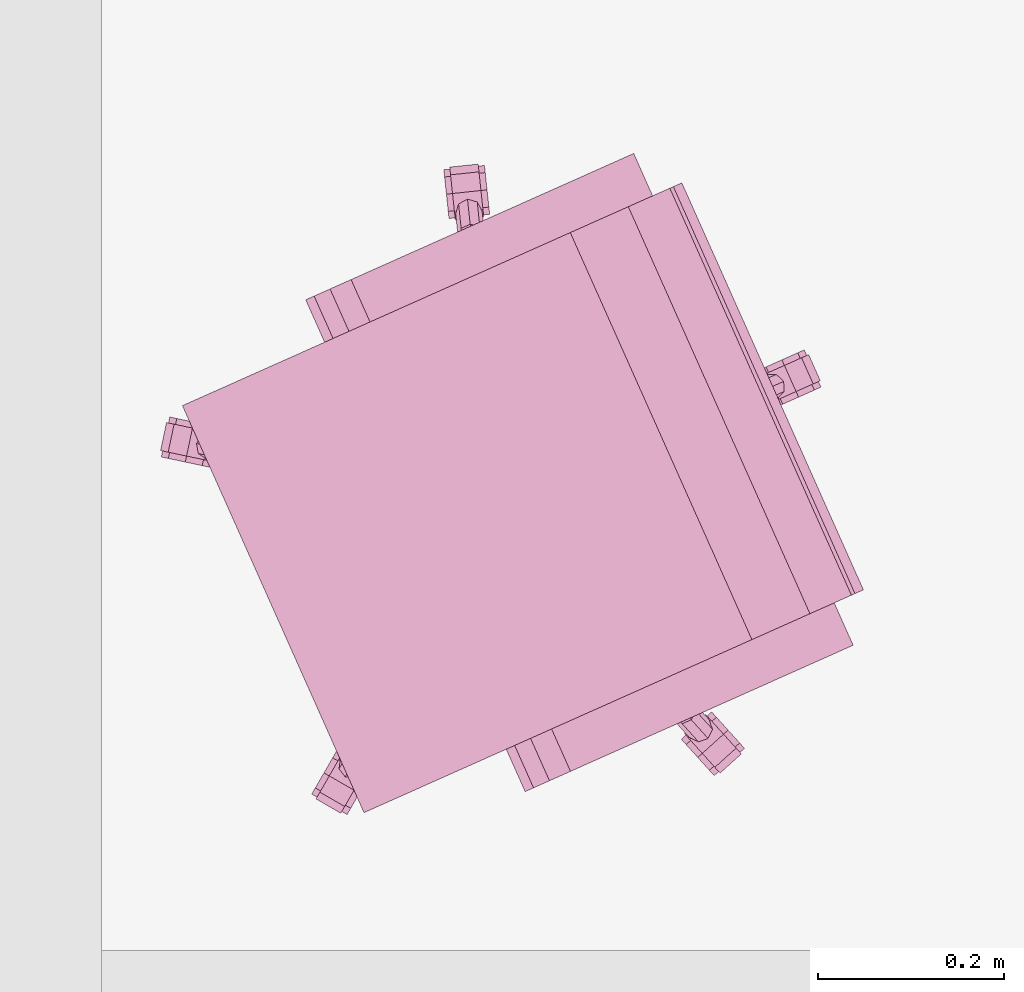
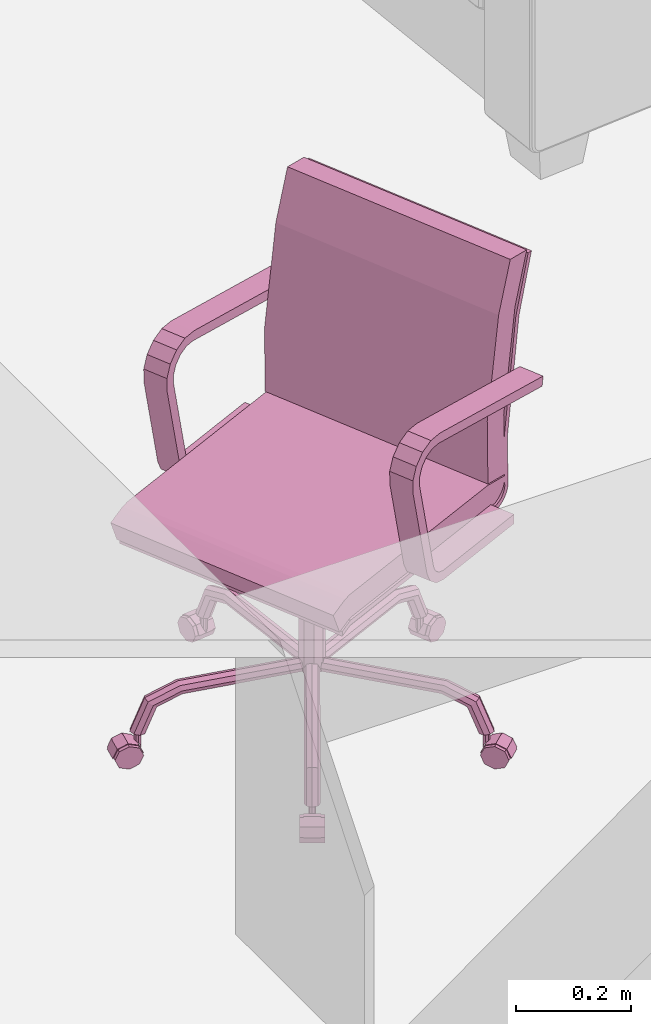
# One storey, part 36 of 36: 1 furnishing.
"""IFC2X3 building model written with IfcOpenShell, lengths in millimetres."""

from ifc_helpers import new_model, entity, si_unit, converted_unit, money_unit, direction, frame, origin_with_axes, place, context, subcontext, project, spatial, open_shell, faceted_brep, surface_model, material, material_list, type_object, element, save


model = new_model("IFC2X3")

# Units and contexts
model_context = context("Model", 3, precision=1e-05, world=origin_with_axes(), true_north=direction((0.0, 1.0)))
body_context = subcontext(model_context, "Body", "Model", "MODEL_VIEW")
ifc_project = project(units=[si_unit("LENGTHUNIT", "METRE", prefix="MILLI"), si_unit("AREAUNIT", "SQUARE_METRE"), si_unit("VOLUMEUNIT", "CUBIC_METRE"), converted_unit("PLANEANGLEUNIT", "DEGREE", entity("IfcPlaneAngleMeasure", 0.0174532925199), si_unit("PLANEANGLEUNIT", "RADIAN"), dimensions=[0, 0, 0, 0, 0, 0, 0]), si_unit("SOLIDANGLEUNIT", "STERADIAN"), money_unit("USD"), converted_unit("TIMEUNIT", "Year", entity("IfcTimeMeasure", 31556926.0), si_unit("TIMEUNIT", "SECOND"), dimensions=[0, 0, 0, 0, 0, 0, 0]), si_unit("MASSUNIT", "GRAM"), si_unit("THERMODYNAMICTEMPERATUREUNIT", "DEGREE_CELSIUS"), si_unit("LUMINOUSINTENSITYUNIT", "LUMEN")], contexts=[model_context])

# Site, building, storey
site_placement = place(None, origin_with_axes())
site = spatial("IfcSite", under=ifc_project, at=site_placement, Name="Site", CompositionType="ELEMENT")
building_placement = place(site_placement, origin_with_axes())
building = spatial("IfcBuilding", under=site, at=building_placement, Name="Building", CompositionType="ELEMENT")
storey_placement = place(building_placement, frame((0.0, 0.0, -3400.0), z_axis=(0.0, 0.0, 1.0), x_axis=(1.0, 0.0, 0.0)))
storey = spatial("IfcBuildingStorey", under=building, at=storey_placement, Name="1KORRUS", CompositionType="ELEMENT", Elevation=-3400.0)

# Furnishing
ifc_material = material(Name="Background")
ifc_material_list = material_list([ifc_material])
furnishing_element_type = type_object("IfcFurnishingElementType", Name="Office Chair 04 19")
furnishing_placement = place(storey_placement, frame((-56987.0141553, -9570.92077888, 0.0), z_axis=(0.0, 0.0, 1.0), x_axis=(0.407465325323, -0.913220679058, 0.0)))
element("IfcFurnishingElement", 1, at=furnishing_placement, inside=storey, type_object=furnishing_element_type, material=ifc_material_list, Name="FU - 009", context=body_context, shape_type="SurfaceModel", body=[
    faceted_brep([(117.332, 563.027, 474.001), (117.332, 560.682, 575.432), (597.615, 560.682, 575.432), (597.615, 563.027, 474.001), (117.332, 562.264, 469.608), (117.332, 559.869, 463.031), (117.332, 556.369, 456.969), (117.332, 551.868, 451.608), (117.332, 546.504, 447.109), (117.332, 540.441, 443.609), (117.332, 533.862, 441.215), (117.332, 526.966, 440.0), (117.332, 523.466, 440.0), (117.332, 94.088, 440.0), (117.332, 70.079, 430.0), (117.332, 70.079, 440.0), (117.332, 94.464, 450.0), (117.332, 523.466, 450.0), (117.332, 526.091, 450.0), (117.332, 531.263, 450.912), (117.332, 536.197, 452.707), (117.332, 540.745, 455.332), (117.332, 544.768, 458.706), (117.332, 548.143, 462.727), (117.332, 550.769, 467.273), (117.332, 552.564, 472.206), (117.332, 553.137, 475.5), (117.332, 550.806, 577.044), (117.332, 585.645, 817.664), (117.332, 622.637, 933.466), (117.332, 632.622, 932.595), (117.332, 595.567, 816.55), (597.615, 595.567, 816.55), (597.615, 632.622, 932.595), (597.615, 622.637, 933.466), (597.615, 585.645, 817.664), (597.615, 550.806, 577.044), (597.615, 553.137, 475.5), (597.615, 552.564, 472.206), (597.615, 550.769, 467.273), (597.615, 548.143, 462.727), (597.615, 544.768, 458.706), (597.615, 540.745, 455.332), (597.615, 536.197, 452.707), (597.615, 531.263, 450.912), (597.615, 526.091, 450.0), (597.615, 523.466, 450.0), (597.615, 94.464, 450.0), (597.615, 70.079, 440.0), (597.615, 70.079, 430.0), (597.615, 94.088, 440.0), (597.615, 523.466, 440.0), (597.615, 526.966, 440.0), (597.615, 533.862, 441.215), (597.615, 540.441, 443.609), (597.615, 546.504, 447.109), (597.615, 551.868, 451.608), (597.615, 556.369, 456.969), (597.615, 559.869, 463.031), (597.615, 562.264, 469.608)], [[[0, 1, 2, 3]], [[0, 4, 5, 6, 7, 8, 9, 10, 11, 12, 13, 14, 15, 16, 17, 18, 19, 20, 21, 22, 23, 24, 25, 26, 27, 28, 29, 30, 31, 1]], [[1, 31, 32, 2]], [[3, 2, 32, 33, 34, 35, 36, 37, 38, 39, 40, 41, 42, 43, 44, 45, 46, 47, 48, 49, 50, 51, 52, 53, 54, 55, 56, 57, 58, 59]], [[4, 0, 3, 59]], [[5, 4, 59, 58]], [[6, 5, 58, 57]], [[7, 6, 57, 56]], [[8, 7, 56, 55]], [[9, 8, 55, 54]], [[10, 9, 54, 53]], [[11, 10, 53, 52]], [[12, 11, 52, 51]], [[13, 12, 51, 50]], [[14, 13, 50, 49]], [[15, 14, 49, 48]], [[16, 15, 48, 47]], [[17, 16, 47, 46]], [[18, 17, 46, 45]], [[19, 18, 45, 44]], [[20, 19, 44, 43]], [[21, 20, 43, 42]], [[22, 21, 42, 41]], [[23, 22, 41, 40]], [[24, 23, 40, 39]], [[25, 24, 39, 38]], [[26, 25, 38, 37]], [[27, 26, 37, 36]], [[28, 27, 36, 35]], [[29, 28, 35, 34]], [[30, 29, 34, 33]], [[31, 30, 33, 32]]]),
    faceted_brep([(117.332, 503.091, 508.623), (117.332, 552.407, 501.304), (597.615, 552.407, 501.304), (597.615, 503.091, 508.623), (117.332, 501.017, 643.688), (117.332, 534.85, 850.614), (117.332, 569.482, 949.569), (117.332, 618.462, 942.299), (117.332, 583.609, 841.333), (117.332, 550.037, 630.369), (597.615, 550.037, 630.369), (597.615, 583.609, 841.333), (597.615, 618.462, 942.299), (597.615, 569.482, 949.569), (597.615, 534.85, 850.614), (597.615, 501.017, 643.688)], [[[0, 1, 2, 3]], [[0, 4, 5, 6, 7, 8, 9, 1]], [[1, 9, 10, 2]], [[3, 2, 10, 11, 12, 13, 14, 15]], [[4, 0, 3, 15]], [[5, 4, 15, 14]], [[6, 5, 14, 13]], [[7, 6, 13, 12]], [[8, 7, 12, 11]], [[9, 8, 11, 10]]]),
    faceted_brep([(117.332, 100.3, 506.0), (117.332, 93.299, 506.0), (597.615, 93.299, 506.0), (597.615, 100.3, 506.0), (117.332, 501.551, 506.0), (117.332, 552.755, 498.401), (117.332, 553.251, 498.327), (117.332, 553.447, 497.398), (117.332, 553.003, 490.062), (117.332, 551.291, 482.914), (117.332, 548.364, 476.172), (117.332, 544.309, 470.04), (117.332, 539.252, 464.706), (117.332, 533.344, 460.33), (117.332, 526.767, 457.046), (117.332, 523.243, 456.0), (117.332, 99.692, 456.0), (117.332, 97.066, 456.0), (117.332, 91.895, 455.088), (117.332, 88.301, 453.755), (117.332, 62.076, 443.0), (117.332, 43.338, 489.11), (117.332, 69.924, 500.013), (117.332, 79.508, 503.569), (597.615, 79.508, 503.569), (597.615, 69.924, 500.013), (597.615, 43.338, 489.11), (597.615, 62.076, 443.0), (597.615, 88.301, 453.755), (597.615, 91.895, 455.088), (597.615, 97.066, 456.0), (597.615, 99.692, 456.0), (597.615, 523.243, 456.0), (597.615, 526.767, 457.046), (597.615, 533.344, 460.33), (597.615, 539.252, 464.706), (597.615, 544.309, 470.04), (597.615, 548.364, 476.172), (597.615, 551.291, 482.914), (597.615, 553.003, 490.062), (597.615, 553.447, 497.398), (597.615, 553.251, 498.327), (597.615, 552.755, 498.401), (597.615, 501.551, 506.0)], [[[0, 1, 2, 3]], [[0, 4, 5, 6, 7, 8, 9, 10, 11, 12, 13, 14, 15, 16, 17, 18, 19, 20, 21, 22, 23, 1]], [[1, 23, 24, 2]], [[3, 2, 24, 25, 26, 27, 28, 29, 30, 31, 32, 33, 34, 35, 36, 37, 38, 39, 40, 41, 42, 43]], [[4, 0, 3, 43]], [[5, 4, 43, 42]], [[6, 5, 42, 41]], [[7, 6, 41, 40]], [[8, 7, 40, 39]], [[9, 8, 39, 38]], [[10, 9, 38, 37]], [[11, 10, 37, 36]], [[12, 11, 36, 35]], [[13, 12, 35, 34]], [[14, 13, 34, 33]], [[15, 14, 33, 32]], [[16, 15, 32, 31]], [[17, 16, 31, 30]], [[18, 17, 30, 29]], [[19, 18, 29, 28]], [[20, 19, 28, 27]], [[21, 20, 27, 26]], [[22, 21, 26, 25]], [[23, 22, 25, 24]]]),
    faceted_brep([(597.615, 511.238, 460.0), (597.615, 301.918, 459.77), (647.645, 301.918, 459.77), (647.645, 511.238, 460.0), (597.615, 511.629, 460.004), (597.615, 511.629, 440.004), (597.615, 301.943, 439.772), (597.615, 279.997, 444.815), (597.615, 262.488, 458.969), (597.615, 252.964, 479.367), (597.615, 211.498, 674.18), (597.615, 211.1, 701.301), (597.615, 221.045, 726.536), (597.615, 239.84, 746.099), (597.615, 264.663, 757.05), (597.615, 291.787, 757.747), (597.615, 598.179, 705.401), (597.615, 595.172, 685.628), (597.615, 288.412, 738.037), (597.615, 269.038, 737.539), (597.615, 251.307, 729.717), (597.615, 237.882, 715.743), (597.615, 230.779, 697.718), (597.615, 231.063, 678.346), (597.615, 272.532, 483.526), (597.615, 278.246, 471.288), (597.615, 288.751, 462.796), (647.645, 288.751, 462.796), (647.645, 278.246, 471.288), (647.645, 272.532, 483.526), (647.645, 231.063, 678.346), (647.645, 230.779, 697.718), (647.645, 237.882, 715.743), (647.645, 251.307, 729.717), (647.645, 269.038, 737.539), (647.645, 288.412, 738.037), (647.645, 595.172, 685.628), (647.645, 598.179, 705.401), (647.645, 291.787, 757.747), (647.645, 264.663, 757.05), (647.645, 239.84, 746.099), (647.645, 221.045, 726.536), (647.645, 211.1, 701.301), (647.645, 211.498, 674.18), (647.645, 252.964, 479.367), (647.645, 262.488, 458.969), (647.645, 279.997, 444.815), (647.645, 301.943, 439.772), (647.645, 511.629, 440.004), (647.645, 511.629, 460.004)], [[[0, 1, 2, 3]], [[0, 4, 5, 6, 7, 8, 9, 10, 11, 12, 13, 14, 15, 16, 17, 18, 19, 20, 21, 22, 23, 24, 25, 26, 1]], [[1, 26, 27, 2]], [[3, 2, 27, 28, 29, 30, 31, 32, 33, 34, 35, 36, 37, 38, 39, 40, 41, 42, 43, 44, 45, 46, 47, 48, 49]], [[4, 0, 3, 49]], [[5, 4, 49, 48]], [[6, 5, 48, 47]], [[7, 6, 47, 46]], [[8, 7, 46, 45]], [[9, 8, 45, 44]], [[10, 9, 44, 43]], [[11, 10, 43, 42]], [[12, 11, 42, 41]], [[13, 12, 41, 40]], [[14, 13, 40, 39]], [[15, 14, 39, 38]], [[16, 15, 38, 37]], [[17, 16, 37, 36]], [[18, 17, 36, 35]], [[19, 18, 35, 34]], [[20, 19, 34, 33]], [[21, 20, 33, 32]], [[22, 21, 32, 31]], [[23, 22, 31, 30]], [[24, 23, 30, 29]], [[25, 24, 29, 28]], [[26, 25, 28, 27]]]),
    faceted_brep([(67.302, 511.238, 460.0), (67.302, 301.918, 459.77), (117.332, 301.918, 459.77), (117.332, 511.238, 460.0), (67.302, 511.629, 460.004), (67.302, 511.629, 440.004), (67.302, 301.943, 439.772), (67.302, 279.997, 444.815), (67.302, 262.488, 458.969), (67.302, 252.964, 479.367), (67.302, 211.498, 674.18), (67.302, 211.1, 701.301), (67.302, 221.045, 726.536), (67.302, 239.84, 746.099), (67.302, 264.663, 757.05), (67.302, 291.787, 757.747), (67.302, 598.179, 705.401), (67.302, 595.172, 685.628), (67.302, 288.412, 738.037), (67.302, 269.038, 737.539), (67.302, 251.307, 729.717), (67.302, 237.882, 715.743), (67.302, 230.779, 697.718), (67.302, 231.063, 678.346), (67.302, 272.532, 483.526), (67.302, 278.246, 471.288), (67.302, 288.751, 462.796), (117.332, 288.751, 462.796), (117.332, 278.246, 471.288), (117.332, 272.532, 483.526), (117.332, 231.063, 678.346), (117.332, 230.779, 697.718), (117.332, 237.882, 715.743), (117.332, 251.307, 729.717), (117.332, 269.038, 737.539), (117.332, 288.412, 738.037), (117.332, 595.172, 685.628), (117.332, 598.179, 705.401), (117.332, 291.787, 757.747), (117.332, 264.663, 757.05), (117.332, 239.84, 746.099), (117.332, 221.045, 726.536), (117.332, 211.1, 701.301), (117.332, 211.498, 674.18), (117.332, 252.964, 479.367), (117.332, 262.488, 458.969), (117.332, 279.997, 444.815), (117.332, 301.943, 439.772), (117.332, 511.629, 440.004), (117.332, 511.629, 460.004)], [[[0, 1, 2, 3]], [[0, 4, 5, 6, 7, 8, 9, 10, 11, 12, 13, 14, 15, 16, 17, 18, 19, 20, 21, 22, 23, 24, 25, 26, 1]], [[1, 26, 27, 2]], [[3, 2, 27, 28, 29, 30, 31, 32, 33, 34, 35, 36, 37, 38, 39, 40, 41, 42, 43, 44, 45, 46, 47, 48, 49]], [[4, 0, 3, 49]], [[5, 4, 49, 48]], [[6, 5, 48, 47]], [[7, 6, 47, 46]], [[8, 7, 46, 45]], [[9, 8, 45, 44]], [[10, 9, 44, 43]], [[11, 10, 43, 42]], [[12, 11, 42, 41]], [[13, 12, 41, 40]], [[14, 13, 40, 39]], [[15, 14, 39, 38]], [[16, 15, 38, 37]], [[17, 16, 37, 36]], [[18, 17, 36, 35]], [[19, 18, 35, 34]], [[20, 19, 34, 33]], [[21, 20, 33, 32]], [[22, 21, 32, 31]], [[23, 22, 31, 30]], [[24, 23, 30, 29]], [[25, 24, 29, 28]], [[26, 25, 28, 27]]]),
    faceted_brep([(388.605, 342.29, 400.0), (401.5, 311.166, 400.0), (388.605, 280.042, 400.0), (357.474, 267.15, 400.0), (326.343, 280.042, 400.0), (313.448, 311.166, 400.0), (326.343, 342.29, 400.0), (357.474, 355.182, 400.0), (388.605, 342.29, 440.0), (401.5, 311.166, 440.0), (388.605, 280.042, 440.0), (357.474, 267.15, 440.0), (326.343, 280.042, 440.0), (313.448, 311.166, 440.0), (326.343, 342.29, 440.0), (357.474, 355.182, 440.0)], [[[0, 1, 2, 3, 4, 5, 6, 7]], [[1, 0, 8, 9]], [[2, 1, 9, 10]], [[3, 2, 10, 11]], [[4, 3, 11, 12]], [[5, 4, 12, 13]], [[6, 5, 13, 14]], [[7, 6, 14, 15]], [[0, 7, 15, 8]], [[8, 15, 14, 13, 12, 11, 10, 9]]]),
    faceted_brep([(366.813, 320.503, 300.0), (370.681, 311.166, 300.0), (366.813, 301.829, 300.0), (357.474, 297.962, 300.0), (348.134, 301.829, 300.0), (344.266, 311.166, 300.0), (348.134, 320.503, 300.0), (357.474, 324.371, 300.0), (366.813, 320.503, 400.0), (370.681, 311.166, 400.0), (366.813, 301.829, 400.0), (357.474, 297.962, 400.0), (348.134, 301.829, 400.0), (344.266, 311.166, 400.0), (348.134, 320.503, 400.0), (357.474, 324.371, 400.0)], [[[0, 1, 2, 3, 4, 5, 6, 7]], [[1, 0, 8, 9]], [[2, 1, 9, 10]], [[3, 2, 10, 11]], [[4, 3, 11, 12]], [[5, 4, 12, 13]], [[6, 5, 13, 14]], [[7, 6, 14, 15]], [[0, 7, 15, 8]], [[8, 15, 14, 13, 12, 11, 10, 9]]]),
    faceted_brep([(374.596, 328.284, 130.0), (381.688, 311.166, 130.0), (374.596, 294.048, 130.0), (357.474, 286.958, 130.0), (340.352, 294.048, 130.0), (333.259, 311.166, 130.0), (340.352, 328.284, 130.0), (357.474, 335.375, 130.0), (374.596, 328.284, 300.0), (381.688, 311.166, 300.0), (374.596, 294.048, 300.0), (357.474, 286.958, 300.0), (340.352, 294.048, 300.0), (333.259, 311.166, 300.0), (340.352, 328.284, 300.0), (357.474, 335.375, 300.0)], [[[0, 1, 2, 3, 4, 5, 6, 7]], [[1, 0, 8, 9]], [[2, 1, 9, 10]], [[3, 2, 10, 11]], [[4, 3, 11, 12]], [[5, 4, 12, 13]], [[6, 5, 13, 14]], [[7, 6, 14, 15]], [[0, 7, 15, 8]], [[8, 15, 14, 13, 12, 11, 10, 9]]]),
    faceted_brep([(57.282, 423.723, 62.1), (46.365, 422.864, 63.779), (71.4, 414.732, 127.054), (80.224, 416.271, 120.083), (65.61, 416.613, 60.421), (66.469, 405.698, 59.725), (59.357, 397.372, 60.421), (48.439, 396.513, 62.1), (40.112, 403.624, 63.779), (39.253, 414.539, 64.475), (65.155, 406.124, 129.941), (127.348, 396.557, 149.192), (130.557, 399.92, 140.0), (86.458, 409.84, 113.113), (86.45, 399.207, 110.225), (80.205, 390.6, 113.113), (71.381, 389.061, 120.083), (65.147, 395.491, 127.054), (123.428, 387.195, 153.0), (340.711, 327.247, 149.192), (342.006, 331.232, 140.0), (131.176, 395.314, 130.808), (128.842, 385.436, 127.0), (124.923, 376.073, 130.808), (121.714, 372.71, 140.0), (121.095, 377.317, 149.192), (337.585, 317.627, 153.0), (334.458, 308.007, 149.192), (333.163, 304.022, 140.0), (334.458, 308.007, 130.808), (337.585, 317.627, 127.0), (340.711, 327.247, 130.808)], [[[0, 1, 2, 3]], [[0, 4, 5, 6, 7, 8, 9, 1]], [[1, 9, 10, 2]], [[3, 2, 11, 12]], [[4, 0, 3, 13]], [[5, 4, 13, 14]], [[6, 5, 14, 15]], [[7, 6, 15, 16]], [[8, 7, 16, 17]], [[9, 8, 17, 10]], [[2, 10, 18, 11]], [[12, 11, 19, 20]], [[13, 3, 12, 21]], [[14, 13, 21, 22]], [[15, 14, 22, 23]], [[16, 15, 23, 24]], [[17, 16, 24, 25]], [[10, 17, 25, 18]], [[11, 18, 26, 19]], [[20, 19, 26, 27, 28, 29, 30, 31]], [[21, 12, 20, 31]], [[22, 21, 31, 30]], [[23, 22, 30, 29]], [[24, 23, 29, 28]], [[25, 24, 28, 27]], [[18, 25, 27, 26]]]),
    surface_model("IfcShellBasedSurfaceModel", [(58.745, 413.116, 33.397), (54.901, 416.398, 40.613), (54.901, 416.398, 62.0), (58.745, 413.116, 62.0), (49.863, 416.001, 44.681), (49.863, 416.001, 62.0), (46.58, 412.159, 62.0), (46.977, 407.121, 62.0), (50.82, 403.839, 62.0), (55.859, 404.236, 62.0), (59.141, 408.078, 62.0), (59.141, 408.078, 24.0), (46.58, 412.159, 45.909), (46.977, 407.121, 44.681), (50.82, 403.839, 40.613), (55.859, 404.236, 33.397)], [open_shell([[[0, 1, 2, 3]], [[1, 4, 5, 2]], [[3, 2, 5, 6, 7, 8, 9, 10]], [[11, 0, 3, 10]], [[4, 12, 6, 5]], [[12, 13, 7, 6]], [[13, 14, 8, 7]], [[14, 15, 9, 8]], [[15, 11, 10, 9]]])]),
    faceted_brep([(13.605, 446.011, 24.0), (20.963, 443.621, 7.029), (7.358, 401.759, 7.029), (0.0, 404.149, 24.0), (20.963, 443.621, 40.971), (38.727, 437.85, 48.0), (56.492, 432.079, 40.971), (63.85, 429.689, 24.0), (56.492, 432.079, 7.029), (38.727, 437.85, 0.0), (25.123, 395.988, 0.0), (42.887, 390.218, 7.029), (50.245, 387.827, 24.0), (42.887, 390.218, 40.971), (25.123, 395.988, 48.0), (7.358, 401.759, 40.971)], [[[0, 1, 2, 3]], [[0, 4, 5, 6, 7, 8, 9, 1]], [[1, 9, 10, 2]], [[3, 2, 10, 11, 12, 13, 14, 15]], [[4, 0, 3, 15]], [[5, 4, 15, 14]], [[6, 5, 14, 13]], [[7, 6, 13, 12]], [[8, 7, 12, 11]], [[9, 8, 11, 10]]]),
    faceted_brep([(63.903, 422.73, 24.0), (55.932, 425.319, 42.385), (46.408, 396.016, 42.385), (54.38, 393.427, 24.0), (62.333, 423.24, 24.0), (54.821, 425.68, 41.324), (36.687, 431.571, 48.5), (18.552, 437.462, 41.324), (11.041, 439.902, 24.0), (9.471, 440.412, 24.0), (17.442, 437.822, 42.385), (36.687, 431.571, 50.0), (27.163, 402.268, 50.0), (7.919, 408.519, 42.385), (-0.053, 411.109, 24.0), (1.517, 410.599, 24.0), (9.029, 408.158, 41.324), (27.163, 402.268, 48.5), (45.298, 396.377, 41.324), (52.81, 393.937, 24.0)], [[[0, 1, 2, 3]], [[0, 4, 5, 6, 7, 8, 9, 10, 11, 1]], [[1, 11, 12, 2]], [[3, 2, 12, 13, 14, 15, 16, 17, 18, 19]], [[4, 0, 3, 19]], [[5, 4, 19, 18]], [[6, 5, 18, 17]], [[7, 6, 17, 16]], [[8, 7, 16, 15]], [[9, 8, 15, 14]], [[10, 9, 14, 13]], [[11, 10, 13, 12]]]),
    faceted_brep([(157.637, 60.515, 62.1), (155.08, 49.869, 63.779), (170.553, 71.16, 127.054), (171.816, 80.026, 120.083), (166.974, 66.236, 60.421), (177.623, 63.68, 59.725), (183.345, 54.344, 60.421), (180.788, 43.698, 62.1), (171.451, 37.977, 63.779), (160.802, 40.533, 64.475), (176.811, 62.563, 129.941), (205.13, 118.741, 149.192), (202.923, 122.832, 140.0), (179.859, 83.966, 113.113), (189.972, 80.673, 110.225), (196.23, 72.075, 113.113), (194.967, 63.209, 120.083), (186.924, 59.269, 127.054), (212.826, 112.121, 153.0), (336.996, 300.197, 149.192), (333.606, 302.66, 140.0), (207.496, 121.997, 130.808), (216.172, 116.725, 127.0), (223.867, 110.105, 130.808), (226.074, 106.015, 140.0), (221.501, 106.85, 149.192), (345.182, 294.252, 153.0), (353.367, 288.306, 149.192), (356.757, 285.843, 140.0), (353.367, 288.306, 130.808), (345.182, 294.252, 127.0), (336.996, 300.197, 130.808)], [[[0, 1, 2, 3]], [[0, 4, 5, 6, 7, 8, 9, 1]], [[1, 9, 10, 2]], [[3, 2, 11, 12]], [[4, 0, 3, 13]], [[5, 4, 13, 14]], [[6, 5, 14, 15]], [[7, 6, 15, 16]], [[8, 7, 16, 17]], [[9, 8, 17, 10]], [[2, 10, 18, 11]], [[12, 11, 19, 20]], [[13, 3, 12, 21]], [[14, 13, 21, 22]], [[15, 14, 22, 23]], [[16, 15, 23, 24]], [[17, 16, 24, 25]], [[10, 17, 25, 18]], [[11, 18, 26, 19]], [[20, 19, 26, 27, 28, 29, 30, 31]], [[21, 12, 20, 31]], [[22, 21, 31, 30]], [[23, 22, 30, 29]], [[24, 23, 29, 28]], [[25, 24, 28, 27]], [[18, 25, 27, 26]]]),
    surface_model("IfcShellBasedSurfaceModel", [(168.179, 58.628, 33.397), (163.87, 55.987, 40.613), (163.87, 55.987, 62.0), (168.179, 58.628, 62.0), (162.69, 51.074, 44.681), (162.69, 51.074, 62.0), (165.331, 46.765, 62.0), (170.246, 45.585, 62.0), (174.555, 48.226, 62.0), (175.735, 53.139, 62.0), (173.094, 57.448, 62.0), (173.094, 57.448, 24.0), (165.331, 46.765, 45.909), (170.246, 45.585, 44.681), (174.555, 48.226, 40.613), (175.735, 53.139, 33.397)], [open_shell([[[0, 1, 2, 3]], [[1, 4, 5, 2]], [[3, 2, 5, 6, 7, 8, 9, 10]], [[11, 0, 3, 10]], [[4, 12, 6, 5]], [[12, 13, 7, 6]], [[13, 14, 8, 7]], [[14, 15, 9, 8]], [[15, 11, 10, 9]]])]),
    faceted_brep([(122.938, 25.872, 24.0), (127.486, 32.13, 7.029), (163.103, 6.258, 7.029), (158.556, 0.0, 24.0), (127.486, 32.13, 40.971), (138.465, 47.238, 48.0), (149.444, 62.346, 40.971), (153.991, 68.603, 24.0), (149.444, 62.346, 7.029), (138.465, 47.238, 0.0), (174.082, 21.366, 0.0), (185.062, 36.474, 7.029), (189.609, 42.732, 24.0), (185.062, 36.474, 40.971), (174.082, 21.366, 48.0), (163.103, 6.258, 40.971)], [[[0, 1, 2, 3]], [[0, 4, 5, 6, 7, 8, 9, 1]], [[1, 9, 10, 2]], [[3, 2, 10, 11, 12, 13, 14, 15]], [[4, 0, 3, 15]], [[5, 4, 15, 14]], [[6, 5, 14, 13]], [[7, 6, 13, 12]], [[8, 7, 12, 11]], [[9, 8, 11, 10]]]),
    faceted_brep([(160.628, 66.503, 24.0), (155.701, 59.724, 42.385), (180.634, 41.613, 42.385), (185.56, 48.393, 24.0), (159.658, 65.168, 24.0), (155.015, 58.779, 41.324), (143.807, 43.357, 48.5), (132.6, 27.934, 41.324), (127.957, 21.546, 24.0), (126.987, 20.211, 24.0), (131.913, 26.99, 42.385), (143.807, 43.357, 50.0), (168.74, 25.247, 50.0), (156.846, 8.88, 42.385), (151.919, 2.1, 24.0), (152.89, 3.436, 24.0), (157.532, 9.824, 41.324), (168.74, 25.247, 48.5), (179.948, 40.669, 41.324), (184.59, 47.057, 24.0)], [[[0, 1, 2, 3]], [[0, 4, 5, 6, 7, 8, 9, 10, 11, 1]], [[1, 11, 12, 2]], [[3, 2, 12, 13, 14, 15, 16, 17, 18, 19]], [[4, 0, 3, 19]], [[5, 4, 19, 18]], [[6, 5, 18, 17]], [[7, 6, 17, 16]], [[8, 7, 16, 15]], [[9, 8, 15, 14]], [[10, 9, 14, 13]], [[11, 10, 13, 12]]]),
    faceted_brep([(534.159, 43.698, 62.1), (543.497, 37.977, 63.779), (528.024, 59.269, 127.054), (519.98, 63.209, 120.083), (531.603, 54.344, 60.421), (537.325, 63.68, 59.725), (547.973, 66.236, 60.421), (557.311, 60.515, 62.1), (559.867, 49.869, 63.779), (554.145, 40.533, 64.475), (538.136, 62.563, 129.941), (493.446, 106.85, 149.192), (488.873, 106.015, 140.0), (518.718, 72.075, 113.113), (524.975, 80.673, 110.225), (535.088, 83.966, 113.113), (543.132, 80.026, 120.083), (544.394, 71.16, 127.054), (502.122, 112.121, 153.0), (361.58, 288.306, 149.192), (358.19, 285.843, 140.0), (491.08, 110.105, 130.808), (498.776, 116.725, 127.0), (507.451, 121.997, 130.808), (512.024, 122.832, 140.0), (509.817, 118.741, 149.192), (369.766, 294.252, 153.0), (377.951, 300.197, 149.192), (381.341, 302.66, 140.0), (377.951, 300.197, 130.808), (369.766, 294.252, 127.0), (361.58, 288.306, 130.808)], [[[0, 1, 2, 3]], [[0, 4, 5, 6, 7, 8, 9, 1]], [[1, 9, 10, 2]], [[3, 2, 11, 12]], [[4, 0, 3, 13]], [[5, 4, 13, 14]], [[6, 5, 14, 15]], [[7, 6, 15, 16]], [[8, 7, 16, 17]], [[9, 8, 17, 10]], [[2, 10, 18, 11]], [[12, 11, 19, 20]], [[13, 3, 12, 21]], [[14, 13, 21, 22]], [[15, 14, 22, 23]], [[16, 15, 23, 24]], [[17, 16, 24, 25]], [[10, 17, 25, 18]], [[11, 18, 26, 19]], [[20, 19, 26, 27, 28, 29, 30, 31]], [[21, 12, 20, 31]], [[22, 21, 31, 30]], [[23, 22, 30, 29]], [[24, 23, 29, 28]], [[25, 24, 28, 27]], [[18, 25, 27, 26]]]),
    surface_model("IfcShellBasedSurfaceModel", [(539.212, 53.139, 33.397), (540.392, 48.226, 40.613), (540.392, 48.226, 62.0), (539.212, 53.139, 62.0), (544.702, 45.585, 44.681), (544.702, 45.585, 62.0), (549.617, 46.765, 62.0), (552.257, 51.074, 62.0), (551.078, 55.987, 62.0), (546.768, 58.628, 62.0), (541.853, 57.448, 62.0), (541.853, 57.448, 24.0), (549.617, 46.765, 45.909), (552.257, 51.074, 44.681), (551.078, 55.987, 40.613), (546.768, 58.628, 33.397)], [open_shell([[[0, 1, 2, 3]], [[1, 4, 5, 2]], [[3, 2, 5, 6, 7, 8, 9, 10]], [[11, 0, 3, 10]], [[4, 12, 6, 5]], [[12, 13, 7, 6]], [[13, 14, 8, 7]], [[14, 15, 9, 8]], [[15, 11, 10, 9]]])]),
    faceted_brep([(556.392, 0.0, 24.0), (551.844, 6.258, 7.029), (587.462, 32.13, 7.029), (592.009, 25.872, 24.0), (551.844, 6.258, 40.971), (540.865, 21.366, 48.0), (529.886, 36.474, 40.971), (525.338, 42.732, 24.0), (529.886, 36.474, 7.029), (540.865, 21.366, 0.0), (576.483, 47.238, 0.0), (565.504, 62.346, 7.029), (560.956, 68.603, 24.0), (565.504, 62.346, 40.971), (576.483, 47.238, 48.0), (587.462, 32.13, 40.971)], [[[0, 1, 2, 3]], [[0, 4, 5, 6, 7, 8, 9, 1]], [[1, 9, 10, 2]], [[3, 2, 10, 11, 12, 13, 14, 15]], [[4, 0, 3, 15]], [[5, 4, 15, 14]], [[6, 5, 14, 13]], [[7, 6, 13, 12]], [[8, 7, 12, 11]], [[9, 8, 11, 10]]]),
    faceted_brep([(529.387, 48.393, 24.0), (534.314, 41.613, 42.385), (559.246, 59.724, 42.385), (554.319, 66.503, 24.0), (530.357, 47.057, 24.0), (535.0, 40.669, 41.324), (546.208, 25.247, 48.5), (557.415, 9.824, 41.324), (562.058, 3.436, 24.0), (563.028, 2.1, 24.0), (558.102, 8.88, 42.385), (546.208, 25.247, 50.0), (571.14, 43.357, 50.0), (583.034, 26.99, 42.385), (587.961, 20.211, 24.0), (586.99, 21.546, 24.0), (582.348, 27.934, 41.324), (571.14, 43.357, 48.5), (559.932, 58.779, 41.324), (555.29, 65.168, 24.0)], [[[0, 1, 2, 3]], [[0, 4, 5, 6, 7, 8, 9, 10, 11, 1]], [[1, 11, 12, 2]], [[3, 2, 12, 13, 14, 15, 16, 17, 18, 19]], [[4, 0, 3, 19]], [[5, 4, 19, 18]], [[6, 5, 18, 17]], [[7, 6, 17, 16]], [[8, 7, 16, 15]], [[9, 8, 15, 14]], [[10, 9, 14, 13]], [[11, 10, 13, 12]]]),
    faceted_brep([(666.508, 396.513, 62.1), (674.836, 403.624, 63.779), (649.8, 395.491, 127.054), (643.566, 389.061, 120.083), (655.591, 397.372, 60.421), (648.479, 405.698, 59.725), (649.338, 416.613, 60.421), (657.665, 423.723, 62.1), (668.583, 422.864, 63.779), (675.695, 414.539, 64.475), (649.792, 406.124, 129.941), (593.853, 377.317, 149.192), (593.234, 372.71, 140.0), (634.742, 390.6, 113.113), (628.497, 399.207, 110.225), (628.489, 409.84, 113.113), (634.723, 416.271, 120.083), (643.547, 414.732, 127.054), (591.519, 387.195, 153.0), (380.489, 308.007, 149.192), (381.784, 304.022, 140.0), (590.025, 376.073, 130.808), (586.105, 385.436, 127.0), (583.772, 395.314, 130.808), (584.391, 399.92, 140.0), (587.6, 396.557, 149.192), (377.363, 317.627, 153.0), (374.236, 327.247, 149.192), (372.941, 331.232, 140.0), (374.236, 327.247, 130.808), (377.363, 317.627, 127.0), (380.489, 308.007, 130.808)], [[[0, 1, 2, 3]], [[0, 4, 5, 6, 7, 8, 9, 1]], [[1, 9, 10, 2]], [[3, 2, 11, 12]], [[4, 0, 3, 13]], [[5, 4, 13, 14]], [[6, 5, 14, 15]], [[7, 6, 15, 16]], [[8, 7, 16, 17]], [[9, 8, 17, 10]], [[2, 10, 18, 11]], [[12, 11, 19, 20]], [[13, 3, 12, 21]], [[14, 13, 21, 22]], [[15, 14, 22, 23]], [[16, 15, 23, 24]], [[17, 16, 24, 25]], [[10, 17, 25, 18]], [[11, 18, 26, 19]], [[20, 19, 26, 27, 28, 29, 30, 31]], [[21, 12, 20, 31]], [[22, 21, 31, 30]], [[23, 22, 30, 29]], [[24, 23, 29, 28]], [[25, 24, 28, 27]], [[18, 25, 27, 26]]]),
    surface_model("IfcShellBasedSurfaceModel", [(659.089, 404.236, 33.397), (664.127, 403.839, 40.613), (664.127, 403.839, 62.0), (659.089, 404.236, 62.0), (667.971, 407.121, 44.681), (667.971, 407.121, 62.0), (668.367, 412.159, 62.0), (665.085, 416.001, 62.0), (660.046, 416.398, 62.0), (656.203, 413.116, 62.0), (655.806, 408.078, 62.0), (655.806, 408.078, 24.0), (668.367, 412.159, 45.909), (665.085, 416.001, 44.681), (660.046, 416.398, 40.613), (656.203, 413.116, 33.397)], [open_shell([[[0, 1, 2, 3]], [[1, 4, 5, 2]], [[3, 2, 5, 6, 7, 8, 9, 10]], [[11, 0, 3, 10]], [[4, 12, 6, 5]], [[12, 13, 7, 6]], [[13, 14, 8, 7]], [[14, 15, 9, 8]], [[15, 11, 10, 9]]])]),
    faceted_brep([(714.947, 404.149, 24.0), (707.589, 401.759, 7.029), (693.984, 443.621, 7.029), (701.343, 446.011, 24.0), (707.589, 401.759, 40.971), (689.825, 395.988, 48.0), (672.06, 390.218, 40.971), (664.702, 387.827, 24.0), (672.06, 390.218, 7.029), (689.825, 395.988, 0.0), (676.22, 437.85, 0.0), (658.455, 432.079, 7.029), (651.097, 429.689, 24.0), (658.455, 432.079, 40.971), (676.22, 437.85, 48.0), (693.984, 443.621, 40.971)], [[[0, 1, 2, 3]], [[0, 4, 5, 6, 7, 8, 9, 1]], [[1, 9, 10, 2]], [[3, 2, 10, 11, 12, 13, 14, 15]], [[4, 0, 3, 15]], [[5, 4, 15, 14]], [[6, 5, 14, 13]], [[7, 6, 13, 12]], [[8, 7, 12, 11]], [[9, 8, 11, 10]]]),
    faceted_brep([(660.568, 393.427, 24.0), (668.539, 396.016, 42.385), (659.016, 425.319, 42.385), (651.044, 422.73, 24.0), (662.138, 393.937, 24.0), (669.649, 396.377, 41.324), (687.784, 402.268, 48.5), (705.918, 408.158, 41.324), (713.43, 410.599, 24.0), (715.0, 411.109, 24.0), (707.029, 408.519, 42.385), (687.784, 402.268, 50.0), (678.261, 431.571, 50.0), (697.505, 437.822, 42.385), (705.477, 440.412, 24.0), (703.907, 439.902, 24.0), (696.395, 437.462, 41.324), (678.261, 431.571, 48.5), (660.126, 425.68, 41.324), (652.614, 423.24, 24.0)], [[[0, 1, 2, 3]], [[0, 4, 5, 6, 7, 8, 9, 10, 11, 1]], [[1, 11, 12, 2]], [[3, 2, 12, 13, 14, 15, 16, 17, 18, 19]], [[4, 0, 3, 19]], [[5, 4, 19, 18]], [[6, 5, 18, 17]], [[7, 6, 17, 16]], [[8, 7, 16, 15]], [[9, 8, 15, 14]], [[10, 9, 14, 13]], [[11, 10, 13, 12]]]),
    faceted_brep([(371.782, 631.382, 62.1), (367.591, 641.497, 63.779), (367.591, 615.179, 127.054), (371.782, 607.265, 120.083), (367.591, 621.267, 60.421), (357.474, 617.077, 59.725), (347.356, 621.267, 60.421), (343.165, 631.382, 62.1), (347.356, 641.497, 63.779), (357.474, 645.687, 64.475), (357.474, 618.457, 129.941), (367.591, 556.366, 149.192), (371.782, 554.354, 140.0), (367.591, 599.35, 113.113), (357.474, 596.072, 110.225), (347.356, 599.35, 113.113), (343.165, 607.265, 120.083), (347.356, 615.179, 127.054), (357.474, 557.199, 153.0), (367.591, 332.074, 149.192), (371.782, 332.074, 140.0), (367.591, 552.342, 130.808), (357.474, 551.509, 127.0), (347.356, 552.342, 130.808), (343.165, 554.354, 140.0), (347.356, 556.366, 149.192), (357.474, 332.074, 153.0), (347.356, 332.074, 149.192), (343.165, 332.074, 140.0), (347.356, 332.074, 130.808), (357.474, 332.074, 127.0), (367.591, 332.074, 130.808)], [[[0, 1, 2, 3]], [[0, 4, 5, 6, 7, 8, 9, 1]], [[1, 9, 10, 2]], [[3, 2, 11, 12]], [[4, 0, 3, 13]], [[5, 4, 13, 14]], [[6, 5, 14, 15]], [[7, 6, 15, 16]], [[8, 7, 16, 17]], [[9, 8, 17, 10]], [[2, 10, 18, 11]], [[12, 11, 19, 20]], [[13, 3, 12, 21]], [[14, 13, 21, 22]], [[15, 14, 22, 23]], [[16, 15, 23, 24]], [[17, 16, 24, 25]], [[10, 17, 25, 18]], [[11, 18, 26, 19]], [[20, 19, 26, 27, 28, 29, 30, 31]], [[21, 12, 20, 31]], [[22, 21, 31, 30]], [[23, 22, 30, 29]], [[24, 23, 29, 28]], [[25, 24, 28, 27]], [[18, 25, 27, 26]]]),
    surface_model("IfcShellBasedSurfaceModel", [(362.143, 626.713, 33.397), (364.078, 631.382, 40.613), (364.078, 631.382, 62.0), (362.143, 626.713, 62.0), (362.143, 636.05, 44.681), (362.143, 636.05, 62.0), (357.474, 637.984, 62.0), (352.804, 636.05, 62.0), (350.87, 631.382, 62.0), (352.804, 626.713, 62.0), (357.474, 624.779, 62.0), (357.474, 624.779, 24.0), (357.474, 637.984, 45.909), (352.804, 636.05, 44.681), (350.87, 631.382, 40.613), (352.804, 626.713, 33.397)], [open_shell([[[0, 1, 2, 3]], [[1, 4, 5, 2]], [[3, 2, 5, 6, 7, 8, 9, 10]], [[11, 0, 3, 10]], [[4, 12, 6, 5]], [[12, 13, 7, 6]], [[13, 14, 8, 7]], [[14, 15, 9, 8]], [[15, 11, 10, 9]]])]),
    faceted_brep([(379.487, 679.799, 24.0), (379.487, 672.064, 7.029), (335.461, 672.064, 7.029), (335.461, 679.799, 24.0), (379.487, 672.064, 40.971), (379.487, 653.39, 48.0), (379.487, 634.715, 40.971), (379.487, 626.98, 24.0), (379.487, 634.715, 7.029), (379.487, 653.39, 0.0), (335.461, 653.39, 0.0), (335.461, 634.715, 7.029), (335.461, 626.98, 24.0), (335.461, 634.715, 40.971), (335.461, 653.39, 48.0), (335.461, 672.064, 40.971)], [[[0, 1, 2, 3]], [[0, 4, 5, 6, 7, 8, 9, 1]], [[1, 9, 10, 2]], [[3, 2, 10, 11, 12, 13, 14, 15]], [[4, 0, 3, 15]], [[5, 4, 15, 14]], [[6, 5, 14, 13]], [[7, 6, 13, 12]], [[8, 7, 12, 11]], [[9, 8, 11, 10]]]),
    faceted_brep([(372.883, 624.779, 24.0), (372.883, 633.159, 42.385), (342.065, 633.159, 42.385), (342.065, 624.779, 24.0), (372.883, 626.43, 24.0), (372.883, 634.326, 41.324), (372.883, 653.39, 48.5), (372.883, 672.453, 41.324), (372.883, 680.349, 24.0), (372.883, 682.0, 24.0), (372.883, 673.62, 42.385), (372.883, 653.39, 50.0), (342.065, 653.39, 50.0), (342.065, 673.62, 42.385), (342.065, 682.0, 24.0), (342.065, 680.349, 24.0), (342.065, 672.453, 41.324), (342.065, 653.39, 48.5), (342.065, 634.326, 41.324), (342.065, 626.43, 24.0)], [[[0, 1, 2, 3]], [[0, 4, 5, 6, 7, 8, 9, 10, 11, 1]], [[1, 11, 12, 2]], [[3, 2, 12, 13, 14, 15, 16, 17, 18, 19]], [[4, 0, 3, 19]], [[5, 4, 19, 18]], [[6, 5, 18, 17]], [[7, 6, 17, 16]], [[8, 7, 16, 15]], [[9, 8, 15, 14]], [[10, 9, 14, 13]], [[11, 10, 13, 12]]]),
])

save(model, "model.ifc")
